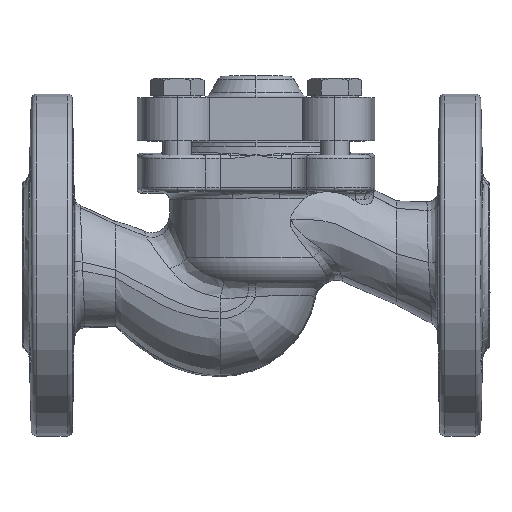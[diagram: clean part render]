
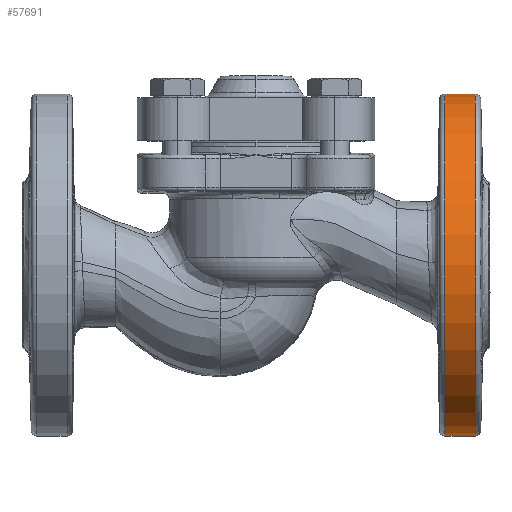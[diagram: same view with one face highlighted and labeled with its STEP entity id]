
A CAD part, top view. The second image highlights one B-rep face of the part: STEP entity #57691.
In plain terms, the highlighted cylindrical face has radius 47.5 mm (diameter 95 mm), a partial arc.
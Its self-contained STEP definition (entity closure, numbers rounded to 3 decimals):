
#2076 = DIRECTION ( 'NONE',  ( 0., -1., 0. ) ) ;
#2871 = CIRCLE ( 'NONE', #63171, 47.5 ) ;
#4124 = AXIS2_PLACEMENT_3D ( 'NONE', #70131, #62687, #2076 ) ;
#6662 = EDGE_CURVE ( 'NONE', #23935, #13959, #35876, .T. ) ;
#6982 = VERTEX_POINT ( 'NONE', #75086 ) ;
#11001 = ORIENTED_EDGE ( 'NONE', *, *, #6662, .F. ) ;
#12423 = ORIENTED_EDGE ( 'NONE', *, *, #83341, .F. ) ;
#13959 = VERTEX_POINT ( 'NONE', #40112 ) ;
#19421 = EDGE_LOOP ( 'NONE', ( #12423, #11001, #46816, #29197 ) ) ;
#22433 = CARTESIAN_POINT ( 'NONE',  ( 117.474, 0., 0. ) ) ;
#23046 = CARTESIAN_POINT ( 'NONE',  ( 125.927, 0., 0. ) ) ;
#23050 = VERTEX_POINT ( 'NONE', #74042 ) ;
#23935 = VERTEX_POINT ( 'NONE', #50793 ) ;
#26402 = VECTOR ( 'NONE', #47635, 1000. ) ;
#29197 = ORIENTED_EDGE ( 'NONE', *, *, #34961, .T. ) ;
#29809 = CARTESIAN_POINT ( 'NONE',  ( 130., 47.5, 0. ) ) ;
#30779 = DIRECTION ( 'NONE',  ( 1., 0., 0. ) ) ;
#32733 = LINE ( 'NONE', #69990, #26402 ) ;
#34961 = EDGE_CURVE ( 'NONE', #23050, #6982, #2871, .T. ) ;
#35876 = CIRCLE ( 'NONE', #39038, 47.5 ) ;
#39038 = AXIS2_PLACEMENT_3D ( 'NONE', #22433, #68122, #60671 ) ;
#39826 = CYLINDRICAL_SURFACE ( 'NONE', #4124, 47.5 ) ;
#40112 = CARTESIAN_POINT ( 'NONE',  ( 117.474, 47.5, 0. ) ) ;
#46816 = ORIENTED_EDGE ( 'NONE', *, *, #55566, .T. ) ;
#47635 = DIRECTION ( 'NONE',  ( 1., 0., 0. ) ) ;
#50793 = CARTESIAN_POINT ( 'NONE',  ( 117.474, -47.5, 0. ) ) ;
#55566 = EDGE_CURVE ( 'NONE', #23935, #23050, #32733, .T. ) ;
#57691 = ADVANCED_FACE ( 'NONE', ( #62191 ), #39826, .T. ) ;
#60671 = DIRECTION ( 'NONE',  ( 0., -1., 0. ) ) ;
#62191 = FACE_OUTER_BOUND ( 'NONE', #19421, .T. ) ;
#62687 = DIRECTION ( 'NONE',  ( 1., 0., 0. ) ) ;
#63171 = AXIS2_PLACEMENT_3D ( 'NONE', #23046, #69238, #85110 ) ;
#68122 = DIRECTION ( 'NONE',  ( -1., 0., 0. ) ) ;
#69238 = DIRECTION ( 'NONE',  ( -1., 0., 0. ) ) ;
#69990 = CARTESIAN_POINT ( 'NONE',  ( 130., -47.5, 0. ) ) ;
#70131 = CARTESIAN_POINT ( 'NONE',  ( 130., 0., 0. ) ) ;
#74042 = CARTESIAN_POINT ( 'NONE',  ( 125.927, -47.5, 0. ) ) ;
#75086 = CARTESIAN_POINT ( 'NONE',  ( 125.927, 47.5, 0. ) ) ;
#75978 = LINE ( 'NONE', #29809, #98273 ) ;
#83341 = EDGE_CURVE ( 'NONE', #13959, #6982, #75978, .T. ) ;
#85110 = DIRECTION ( 'NONE',  ( 0., -1., 0. ) ) ;
#98273 = VECTOR ( 'NONE', #30779, 1000. ) ;
